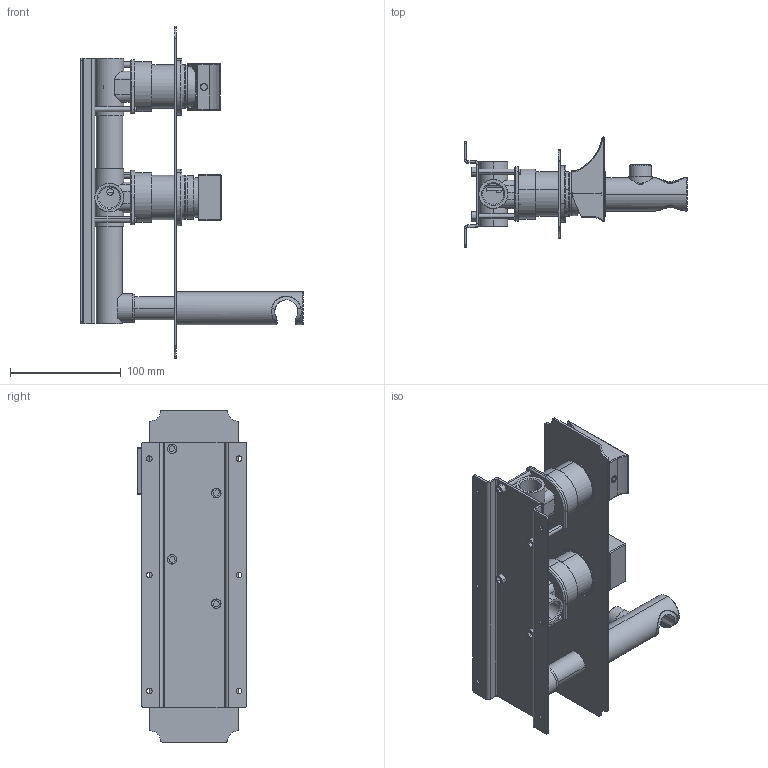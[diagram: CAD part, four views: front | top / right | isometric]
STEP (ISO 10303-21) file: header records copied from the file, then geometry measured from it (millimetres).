
FILE_DESCRIPTION (( 'STEP AP203' ), '1' );
FILE_NAME ('RAJ80N.STEP', '2024-11-05T07:29:12', ( '' ), ( '' ), 'SwSTEP 2.0', 'SolidWorks 2023', '' );
FILE_SCHEMA (( 'CONFIG_CONTROL_DESIGN' ));
Length unit declared in the file: millimetre
Products named in the file (30): C24.2119.00.0; AS855_00; C50.00.0013; C24.1965.00.0; C11.10.0022; C24.2086.00.0; C25.1964.00.0; C10.00.0011; C11.14.0007; C24.2016.00.0; C12.00.0017; C25.0791.00.1; C47.00.0121.0; C24.1992.00.0; C47.00.0023.01; RAJ80N; C24.1966.00.0; C12.00.0008; C12.00.0035; C11.14.0009; C12.00.0011; C24.1993.00.0; C50.00.0034.00; CAPP_0; C25.1963.00.0; ISN80; EU1968_0; C11.14.0008; AS806_00; C10.00.0015
Assembly tree (39 placements, depth 3):
  RAJ80N
    C25.1963.00.0
    C12.00.0035  x2
    C24.2119.00.0  x2
    C47.00.0023.01
    AS806_00
      C24.1992.00.0
      C24.2016.00.0
      C47.00.0023.01
      C11.14.0009
      C11.14.0007
    C11.14.0007
    AS855_00
      C24.2086.00.0
      C47.00.0121.0
      C25.0791.00.1
      C12.00.0011
      C11.14.0008
    C24.1965.00.0  x2
    C24.1993.00.0
    CAPP_0
    EU1968_0
    ISN80
      C50.00.0034.00
      C24.1966.00.0
      C25.1964.00.0
      C12.00.0008
      C12.00.0017  x2
      C50.00.0013  x2
      C10.00.0015
      C10.00.0011
      C11.10.0022  x4
Bounding box: 201.5 x 99 x 300 mm (x, y, z)
Volume: 462257.5 mm3; surface area: 287855.8 mm2
Topology: 43 solids, 43 shells, 1653 faces, 3890 edges, 2423 vertices
Faces by surface type: cylinder 644, plane 623, torus 186, cone 179, bspline 21
Entity records: 42984 total; most frequent: CARTESIAN_POINT 10138, DIRECTION 6572, ORIENTED_EDGE 5824, EDGE_CURVE 2912, AXIS2_PLACEMENT_3D 2608, VERTEX_POINT 1817, EDGE_LOOP 1439, VECTOR 1356
